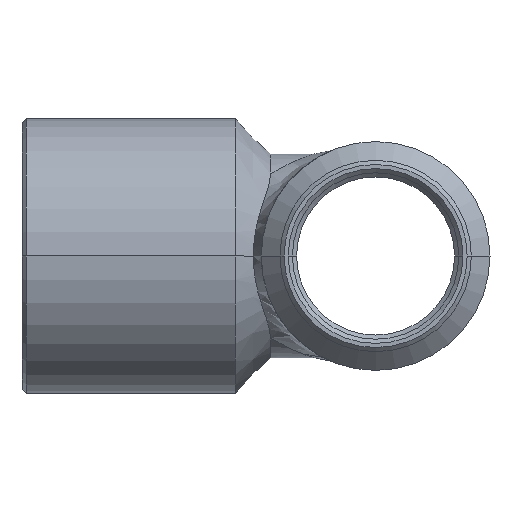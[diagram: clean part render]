
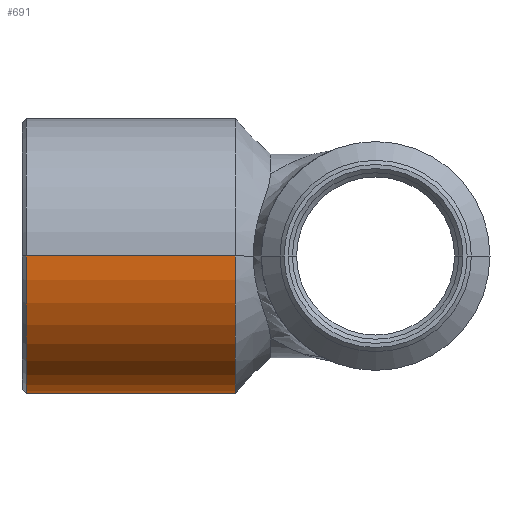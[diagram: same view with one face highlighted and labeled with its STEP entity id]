
A CAD part, left-side view. The second image highlights one B-rep face of the part: STEP entity #691.
In plain terms, the highlighted cylindrical face has radius 6.6 mm (diameter 13.2 mm), a partial arc.
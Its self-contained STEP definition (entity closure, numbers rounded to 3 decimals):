
#209=CARTESIAN_POINT('',(-6.6,6.75,0.));
#210=VERTEX_POINT('',#209);
#219=CARTESIAN_POINT('',(6.6,6.75,0.));
#220=VERTEX_POINT('',#219);
#221=CARTESIAN_POINT('',(0.,6.75,0.0));
#222=DIRECTION('',(0.0,-1.0,0.0));
#223=DIRECTION('',(-1.0,0.0,0.0));
#224=AXIS2_PLACEMENT_3D('',#221,#222,#223);
#225=CIRCLE('',#224,6.6);
#226=EDGE_CURVE('',#210,#220,#225,.T.);
#660=CARTESIAN_POINT('',(0.,17.0,0.0));
#661=DIRECTION('',(0.,-1.0,0.0));
#662=DIRECTION('',(-1.0,0.0,0.0));
#663=AXIS2_PLACEMENT_3D('',#660,#661,#662);
#664=CYLINDRICAL_SURFACE('',#663,6.6);
#665=CARTESIAN_POINT('',(-6.6,16.8,0.));
#666=VERTEX_POINT('',#665);
#667=CARTESIAN_POINT('',(-6.6,16.8,0.));
#668=DIRECTION('',(0.0,-1.0,0.0));
#669=VECTOR('',#668,10.05);
#670=LINE('',#667,#669);
#671=EDGE_CURVE('',#666,#210,#670,.T.);
#672=ORIENTED_EDGE('',*,*,#671,.F.);
#673=CARTESIAN_POINT('',(6.6,16.8,0.));
#674=VERTEX_POINT('',#673);
#675=CARTESIAN_POINT('',(0.,16.8,0.0));
#676=DIRECTION('',(0.0,1.0,0.0));
#677=DIRECTION('',(-1.0,0.0,0.0));
#678=AXIS2_PLACEMENT_3D('',#675,#676,#677);
#679=CIRCLE('',#678,6.6);
#680=EDGE_CURVE('',#674,#666,#679,.T.);
#681=ORIENTED_EDGE('',*,*,#680,.F.);
#682=CARTESIAN_POINT('',(6.6,6.75,0.));
#683=DIRECTION('',(0.0,1.0,0.0));
#684=VECTOR('',#683,10.05);
#685=LINE('',#682,#684);
#686=EDGE_CURVE('',#220,#674,#685,.T.);
#687=ORIENTED_EDGE('',*,*,#686,.F.);
#688=ORIENTED_EDGE('',*,*,#226,.F.);
#689=EDGE_LOOP('',(#672,#681,#687,#688));
#690=FACE_OUTER_BOUND('',#689,.T.);
#691=ADVANCED_FACE('',(#690),#664,.T.);
